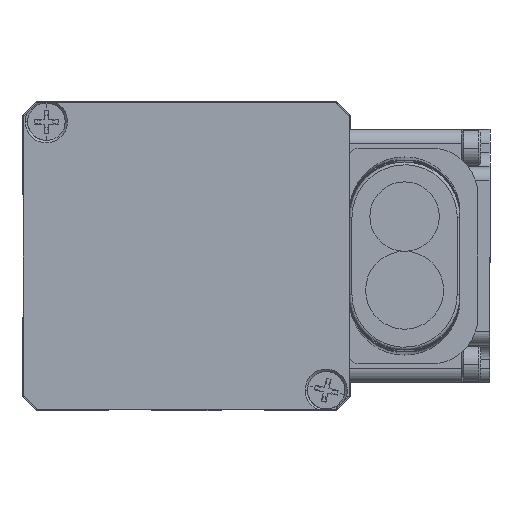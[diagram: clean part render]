
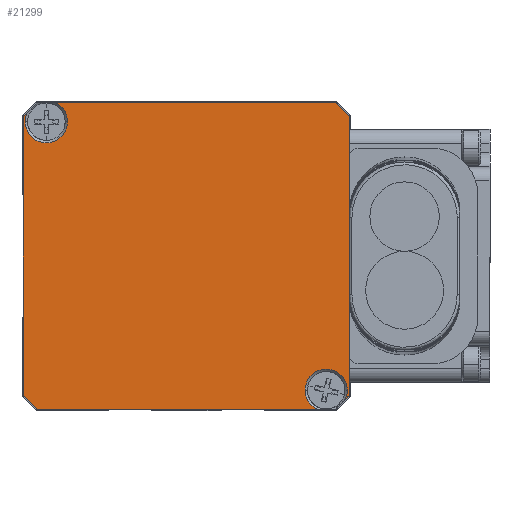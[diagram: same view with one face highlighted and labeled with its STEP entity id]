
A CAD part, front view. The second image highlights one B-rep face of the part: STEP entity #21299.
In plain terms, the highlighted planar face has unit normal (0, -1, 0).
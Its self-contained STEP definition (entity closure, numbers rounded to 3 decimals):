
#67 = DIRECTION ( 'NONE',  ( -1., 0., 0. ) ) ;
#178 = VERTEX_POINT ( 'NONE', #4414 ) ;
#241 = EDGE_CURVE ( 'NONE', #23690, #22866, #27442, .T. ) ;
#950 = LINE ( 'NONE', #31170, #18939 ) ;
#998 = VERTEX_POINT ( 'NONE', #26086 ) ;
#1281 = LINE ( 'NONE', #3644, #11659 ) ;
#1517 = ORIENTED_EDGE ( 'NONE', *, *, #1904, .T. ) ;
#1554 = CARTESIAN_POINT ( 'NONE',  ( -16.93, -2.5, 16.27 ) ) ;
#1904 = EDGE_CURVE ( 'NONE', #178, #24714, #1281, .T. ) ;
#2068 = CIRCLE ( 'NONE', #29079, 2.25 ) ;
#2600 = EDGE_CURVE ( 'NONE', #28098, #998, #28511, .T. ) ;
#3034 = VECTOR ( 'NONE', #9397, 1000. ) ;
#3048 = VERTEX_POINT ( 'NONE', #1554 ) ;
#3251 = CARTESIAN_POINT ( 'NONE',  ( -17.35, -2.5, 15.85 ) ) ;
#3587 = CARTESIAN_POINT ( 'NONE',  ( -15.85, -2.5, 17.35 ) ) ;
#3644 = CARTESIAN_POINT ( 'NONE',  ( 15.85, -2.5, -15.35 ) ) ;
#3837 = VERTEX_POINT ( 'NONE', #3251 ) ;
#3969 = DIRECTION ( 'NONE',  ( -1., 0., 0. ) ) ;
#4099 = ORIENTED_EDGE ( 'NONE', *, *, #31554, .F. ) ;
#4414 = CARTESIAN_POINT ( 'NONE',  ( 16.93, -2.5, -14.27 ) ) ;
#4934 = DIRECTION ( 'NONE',  ( 0.707, 0., -0.707 ) ) ;
#6047 = ORIENTED_EDGE ( 'NONE', *, *, #10982, .F. ) ;
#6093 = LINE ( 'NONE', #3587, #26154 ) ;
#6103 = DIRECTION ( 'NONE',  ( 0., -1., 0. ) ) ;
#6424 = ORIENTED_EDGE ( 'NONE', *, *, #23467, .T. ) ;
#7177 = FACE_OUTER_BOUND ( 'NONE', #27620, .T. ) ;
#7638 = CARTESIAN_POINT ( 'NONE',  ( 14.9, -2.5, -13.3 ) ) ;
#7863 = CARTESIAN_POINT ( 'NONE',  ( -17.35, -2.5, -13.85 ) ) ;
#7979 = ORIENTED_EDGE ( 'NONE', *, *, #25679, .F. ) ;
#8002 = LINE ( 'NONE', #32807, #18158 ) ;
#9397 = DIRECTION ( 'NONE',  ( -0.707, 0., 0.707 ) ) ;
#10084 = VERTEX_POINT ( 'NONE', #32036 ) ;
#10192 = CIRCLE ( 'NONE', #23398, 2.25 ) ;
#10806 = EDGE_CURVE ( 'NONE', #18763, #31545, #2068, .T. ) ;
#10982 = EDGE_CURVE ( 'NONE', #23690, #3837, #8002, .T. ) ;
#11021 = CARTESIAN_POINT ( 'NONE',  ( -13.973, -2.5, 17.35 ) ) ;
#11033 = LINE ( 'NONE', #30265, #14422 ) ;
#11510 = ORIENTED_EDGE ( 'NONE', *, *, #12500, .F. ) ;
#11659 = VECTOR ( 'NONE', #23240, 1000. ) ;
#11917 = ORIENTED_EDGE ( 'NONE', *, *, #21668, .F. ) ;
#12212 = DIRECTION ( 'NONE',  ( -1., 0., 0. ) ) ;
#12500 = EDGE_CURVE ( 'NONE', #18096, #19530, #10192, .T. ) ;
#12572 = ORIENTED_EDGE ( 'NONE', *, *, #33020, .T. ) ;
#13379 = ORIENTED_EDGE ( 'NONE', *, *, #14903, .F. ) ;
#13764 = DIRECTION ( 'NONE',  ( 0., 0., 1. ) ) ;
#13928 = DIRECTION ( 'NONE',  ( 0., 0., -1. ) ) ;
#13986 = ORIENTED_EDGE ( 'NONE', *, *, #18424, .F. ) ;
#14050 = ORIENTED_EDGE ( 'NONE', *, *, #10806, .F. ) ;
#14422 = VECTOR ( 'NONE', #67, 1000. ) ;
#14903 = EDGE_CURVE ( 'NONE', #19530, #10084, #32816, .T. ) ;
#14917 = CARTESIAN_POINT ( 'NONE',  ( 14.9, -2.5, -13.3 ) ) ;
#15271 = PLANE ( 'NONE',  #30463 ) ;
#15307 = CARTESIAN_POINT ( 'NONE',  ( 17.35, -2.5, -13.85 ) ) ;
#15407 = DIRECTION ( 'NONE',  ( -1., 0., 0. ) ) ;
#16454 = AXIS2_PLACEMENT_3D ( 'NONE', #22705, #19989, #3969 ) ;
#16477 = AXIS2_PLACEMENT_3D ( 'NONE', #32905, #16725, #32725 ) ;
#16725 = DIRECTION ( 'NONE',  ( 0., -1., 0. ) ) ;
#16892 = VECTOR ( 'NONE', #31374, 1000. ) ;
#18006 = CARTESIAN_POINT ( 'NONE',  ( -17.15, -2.5, 15.3 ) ) ;
#18096 = VERTEX_POINT ( 'NONE', #27731 ) ;
#18118 = DIRECTION ( 'NONE',  ( 1., 0., 0. ) ) ;
#18158 = VECTOR ( 'NONE', #13764, 1000. ) ;
#18424 = EDGE_CURVE ( 'NONE', #3048, #18763, #35428, .T. ) ;
#18763 = VERTEX_POINT ( 'NONE', #18006 ) ;
#18939 = VECTOR ( 'NONE', #13928, 1000. ) ;
#19302 = CARTESIAN_POINT ( 'NONE',  ( -17.35, -2.5, -13.85 ) ) ;
#19530 = VERTEX_POINT ( 'NONE', #28802 ) ;
#19989 = DIRECTION ( 'NONE',  ( 0., -1., 0. ) ) ;
#20294 = VECTOR ( 'NONE', #4934, 1000. ) ;
#20430 = CARTESIAN_POINT ( 'NONE',  ( -17.35, -2.5, 17.35 ) ) ;
#21070 = AXIS2_PLACEMENT_3D ( 'NONE', #23327, #33948, #15407 ) ;
#21281 = ORIENTED_EDGE ( 'NONE', *, *, #2600, .F. ) ;
#21299 = ADVANCED_FACE ( 'NONE', ( #7177 ), #15271, .F. ) ;
#21361 = AXIS2_PLACEMENT_3D ( 'NONE', #14917, #6103, #12212 ) ;
#21668 = EDGE_CURVE ( 'NONE', #10084, #22866, #11033, .T. ) ;
#22705 = CARTESIAN_POINT ( 'NONE',  ( 14.9, -2.5, -13.3 ) ) ;
#22866 = VERTEX_POINT ( 'NONE', #26716 ) ;
#22899 = CARTESIAN_POINT ( 'NONE',  ( -12.65, -2.5, 15.3 ) ) ;
#23143 = DIRECTION ( 'NONE',  ( 0., -1., 0. ) ) ;
#23240 = DIRECTION ( 'NONE',  ( 0.707, 0., 0.707 ) ) ;
#23327 = CARTESIAN_POINT ( 'NONE',  ( -14.9, -2.5, 15.3 ) ) ;
#23398 = AXIS2_PLACEMENT_3D ( 'NONE', #7638, #27071, #29741 ) ;
#23467 = EDGE_CURVE ( 'NONE', #3048, #3837, #6093, .T. ) ;
#23657 = ORIENTED_EDGE ( 'NONE', *, *, #24615, .F. ) ;
#23690 = VERTEX_POINT ( 'NONE', #7863 ) ;
#23749 = ORIENTED_EDGE ( 'NONE', *, *, #241, .T. ) ;
#23925 = CIRCLE ( 'NONE', #16454, 2.25 ) ;
#24615 = EDGE_CURVE ( 'NONE', #178, #18096, #23925, .T. ) ;
#24714 = VERTEX_POINT ( 'NONE', #15307 ) ;
#25003 = DIRECTION ( 'NONE',  ( -0.707, 0., -0.707 ) ) ;
#25491 = DIRECTION ( 'NONE',  ( -1., 0., 0. ) ) ;
#25679 = EDGE_CURVE ( 'NONE', #31545, #28098, #25680, .T. ) ;
#25680 = CIRCLE ( 'NONE', #16477, 2.25 ) ;
#25995 = CARTESIAN_POINT ( 'NONE',  ( 17.35, -2.5, 15.85 ) ) ;
#26086 = CARTESIAN_POINT ( 'NONE',  ( 15.85, -2.5, 17.35 ) ) ;
#26109 = CARTESIAN_POINT ( 'NONE',  ( 17.35, -2.5, 15.85 ) ) ;
#26154 = VECTOR ( 'NONE', #25003, 1000. ) ;
#26455 = LINE ( 'NONE', #26109, #3034 ) ;
#26716 = CARTESIAN_POINT ( 'NONE',  ( -15.85, -2.5, -15.35 ) ) ;
#27071 = DIRECTION ( 'NONE',  ( 0., -1., 0. ) ) ;
#27442 = LINE ( 'NONE', #19302, #20294 ) ;
#27620 = EDGE_LOOP ( 'NONE', ( #21281, #7979, #14050, #13986, #6424, #6047, #23749, #11917, #13379, #11510, #23657, #1517, #4099, #12572 ) ) ;
#27731 = CARTESIAN_POINT ( 'NONE',  ( 17.15, -2.5, -13.3 ) ) ;
#28098 = VERTEX_POINT ( 'NONE', #11021 ) ;
#28511 = LINE ( 'NONE', #20430, #16892 ) ;
#28802 = CARTESIAN_POINT ( 'NONE',  ( 12.65, -2.5, -13.3 ) ) ;
#29079 = AXIS2_PLACEMENT_3D ( 'NONE', #33737, #23143, #25491 ) ;
#29293 = DIRECTION ( 'NONE',  ( 0., 1., 0. ) ) ;
#29741 = DIRECTION ( 'NONE',  ( -1., 0., 0. ) ) ;
#30265 = CARTESIAN_POINT ( 'NONE',  ( -17.35, -2.5, -15.35 ) ) ;
#30463 = AXIS2_PLACEMENT_3D ( 'NONE', #31812, #29293, #18118 ) ;
#31170 = CARTESIAN_POINT ( 'NONE',  ( 17.35, -2.5, -15.35 ) ) ;
#31374 = DIRECTION ( 'NONE',  ( 1., 0., 0. ) ) ;
#31545 = VERTEX_POINT ( 'NONE', #22899 ) ;
#31554 = EDGE_CURVE ( 'NONE', #34391, #24714, #950, .T. ) ;
#31812 = CARTESIAN_POINT ( 'NONE',  ( 0., -2.5, 1. ) ) ;
#32036 = CARTESIAN_POINT ( 'NONE',  ( 13.973, -2.5, -15.35 ) ) ;
#32725 = DIRECTION ( 'NONE',  ( -1., 0., 0. ) ) ;
#32807 = CARTESIAN_POINT ( 'NONE',  ( -17.35, -2.5, -15.35 ) ) ;
#32816 = CIRCLE ( 'NONE', #21361, 2.25 ) ;
#32905 = CARTESIAN_POINT ( 'NONE',  ( -14.9, -2.5, 15.3 ) ) ;
#33020 = EDGE_CURVE ( 'NONE', #34391, #998, #26455, .T. ) ;
#33737 = CARTESIAN_POINT ( 'NONE',  ( -14.9, -2.5, 15.3 ) ) ;
#33948 = DIRECTION ( 'NONE',  ( 0., -1., 0. ) ) ;
#34391 = VERTEX_POINT ( 'NONE', #25995 ) ;
#35428 = CIRCLE ( 'NONE', #21070, 2.25 ) ;
